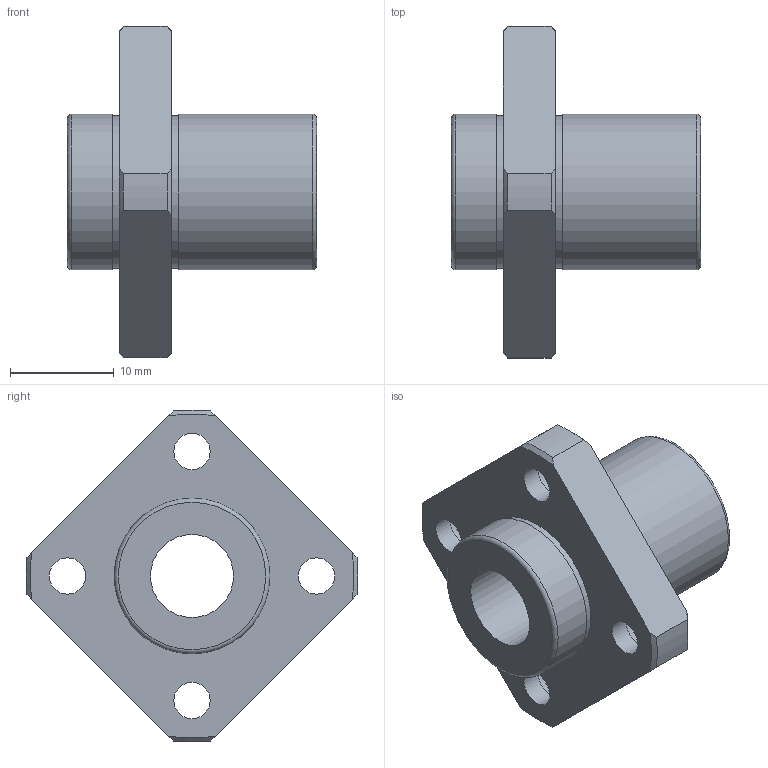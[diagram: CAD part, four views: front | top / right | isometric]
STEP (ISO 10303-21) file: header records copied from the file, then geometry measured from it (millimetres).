
FILE_DESCRIPTION(('STEP AP203'),'1');
FILE_NAME('//192.168.1.1/share/s-4 技術開発/s-4-4_CAD/s-4-4-3_見直し済み/002 修正済み/NFIS-V/NFIS-V_TOP/NFIS-8VUU.step','2022-03-08T02:24:09',(' '),(' '),'Spatial InterOp 3D',' ',' ');
FILE_SCHEMA(('CONFIG_CONTROL_DESIGN'));
Length unit declared in the file: millimetre
Products named in the file (1): 1
Bounding box: 24 x 31.98 x 31.98 mm (x, y, z)
Volume: 4778.6 mm3; surface area: 3337.9 mm2
Topology: 1 solids, 1 shells, 41 faces, 99 edges, 68 vertices
Faces by surface type: cylinder 17, plane 14, cone 8, torus 2
Full cylindrical faces by diameter (mm): 3.5 x4, 6 x4, 8 x1, 14.7 x2, 15 x2
Entity records: 1158 total; most frequent: CARTESIAN_POINT 226, DIRECTION 188, ORIENTED_EDGE 152, AXIS2_PLACEMENT_3D 86, EDGE_CURVE 76, EDGE_LOOP 74, VERTEX_POINT 60, FACE_OUTER_BOUND 56
